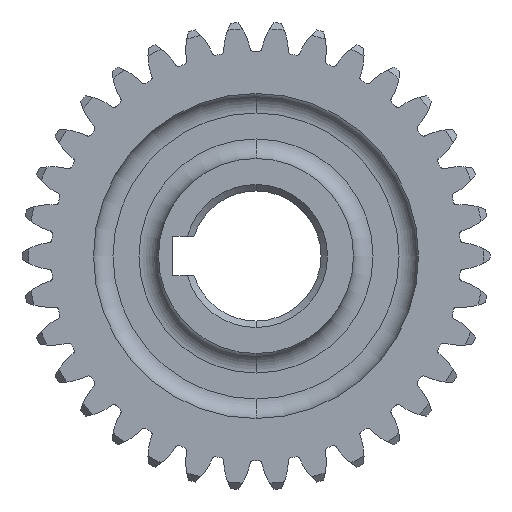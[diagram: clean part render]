
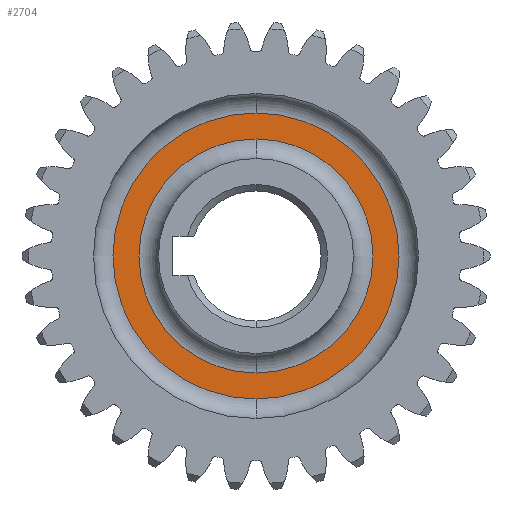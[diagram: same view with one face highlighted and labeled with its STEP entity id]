
A CAD part, left-side view. The second image highlights one B-rep face of the part: STEP entity #2704.
In plain terms, the highlighted planar face has unit normal (-1, 0, 0).
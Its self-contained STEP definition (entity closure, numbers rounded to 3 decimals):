
#1446 = DIRECTION ( 'NONE',  ( 1., 0., 0. ) ) ;
#1796 = ORIENTED_EDGE ( 'NONE', *, *, #5355, .T. ) ;
#2123 = EDGE_CURVE ( 'NONE', #13053, #8357, #6636, .T. ) ;
#2145 = PLANE ( 'NONE',  #11856 ) ;
#2261 = CIRCLE ( 'NONE', #8045, 18. ) ;
#2284 = AXIS2_PLACEMENT_3D ( 'NONE', #10926, #2603, #12341 ) ;
#2603 = DIRECTION ( 'NONE',  ( -1., 0., 0. ) ) ;
#2704 = ADVANCED_FACE ( 'NONE', ( #16903, #2940 ), #2145, .T. ) ;
#2940 = FACE_OUTER_BOUND ( 'NONE', #17894, .T. ) ;
#3380 = DIRECTION ( 'NONE',  ( 1., 0., 0. ) ) ;
#4761 = ORIENTED_EDGE ( 'NONE', *, *, #7436, .T. ) ;
#4834 = EDGE_LOOP ( 'NONE', ( #10823, #1796 ) ) ;
#5157 = CARTESIAN_POINT ( 'NONE',  ( 3., 0., -18. ) ) ;
#5355 = EDGE_CURVE ( 'NONE', #13490, #11120, #2261, .T. ) ;
#6636 = CIRCLE ( 'NONE', #2284, 22. ) ;
#7436 = EDGE_CURVE ( 'NONE', #8357, #13053, #12372, .T. ) ;
#7735 = DIRECTION ( 'NONE',  ( -1., 0., 0. ) ) ;
#8045 = AXIS2_PLACEMENT_3D ( 'NONE', #9811, #1446, #11204 ) ;
#8262 = DIRECTION ( 'NONE',  ( -1., 0., 0. ) ) ;
#8337 = CARTESIAN_POINT ( 'NONE',  ( 3., 0., -22. ) ) ;
#8357 = VERTEX_POINT ( 'NONE', #8337 ) ;
#9588 = ORIENTED_EDGE ( 'NONE', *, *, #2123, .T. ) ;
#9811 = CARTESIAN_POINT ( 'NONE',  ( 3., 0., 0. ) ) ;
#10823 = ORIENTED_EDGE ( 'NONE', *, *, #17102, .T. ) ;
#10926 = CARTESIAN_POINT ( 'NONE',  ( 3., 0., 0. ) ) ;
#11120 = VERTEX_POINT ( 'NONE', #16259 ) ;
#11204 = DIRECTION ( 'NONE',  ( 0., 0., 1. ) ) ;
#11721 = CARTESIAN_POINT ( 'NONE',  ( 3., 0., 0. ) ) ;
#11856 = AXIS2_PLACEMENT_3D ( 'NONE', #16096, #7735, #17476 ) ;
#12341 = DIRECTION ( 'NONE',  ( 0., 0., 1. ) ) ;
#12372 = CIRCLE ( 'NONE', #16737, 22. ) ;
#12429 = CARTESIAN_POINT ( 'NONE',  ( 3., 0., 22. ) ) ;
#12627 = AXIS2_PLACEMENT_3D ( 'NONE', #11721, #3380, #13129 ) ;
#13053 = VERTEX_POINT ( 'NONE', #12429 ) ;
#13129 = DIRECTION ( 'NONE',  ( 0., 0., 1. ) ) ;
#13490 = VERTEX_POINT ( 'NONE', #5157 ) ;
#14960 = CIRCLE ( 'NONE', #12627, 18. ) ;
#16096 = CARTESIAN_POINT ( 'NONE',  ( 3., 0., 0. ) ) ;
#16259 = CARTESIAN_POINT ( 'NONE',  ( 3., 0., 18. ) ) ;
#16596 = CARTESIAN_POINT ( 'NONE',  ( 3., 0., 0. ) ) ;
#16737 = AXIS2_PLACEMENT_3D ( 'NONE', #16596, #8262, #17995 ) ;
#16903 = FACE_BOUND ( 'NONE', #4834, .T. ) ;
#17102 = EDGE_CURVE ( 'NONE', #11120, #13490, #14960, .T. ) ;
#17476 = DIRECTION ( 'NONE',  ( 0., 0., 1. ) ) ;
#17894 = EDGE_LOOP ( 'NONE', ( #9588, #4761 ) ) ;
#17995 = DIRECTION ( 'NONE',  ( 0., 0., 1. ) ) ;
